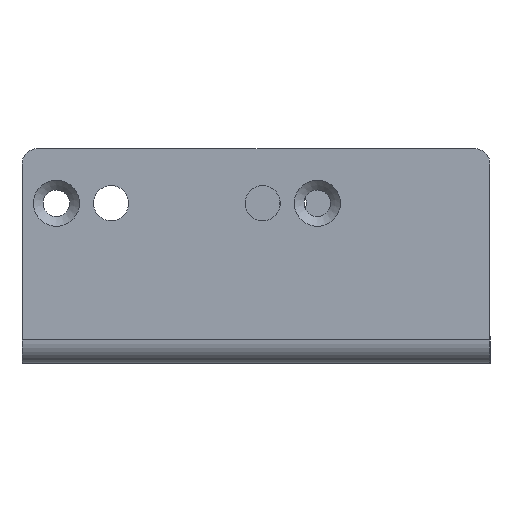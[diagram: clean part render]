
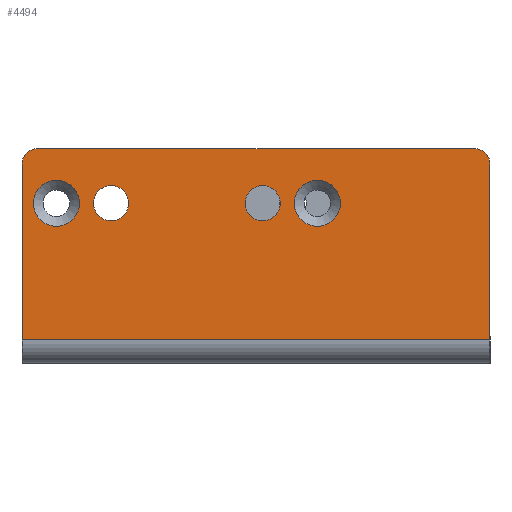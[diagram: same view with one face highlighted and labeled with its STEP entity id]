
A CAD part, left-side view. The second image highlights one B-rep face of the part: STEP entity #4494.
In plain terms, the highlighted planar face has unit normal (-1, 0, 0).
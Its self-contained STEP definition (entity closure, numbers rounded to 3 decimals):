
#441=FACE_BOUND('',#1021,.T.);
#442=FACE_BOUND('',#1022,.T.);
#443=FACE_BOUND('',#1023,.T.);
#444=FACE_BOUND('',#1024,.T.);
#553=PLANE('',#4790);
#791=FACE_OUTER_BOUND('',#1020,.T.);
#1020=EDGE_LOOP('',(#3488,#3489,#3490,#3491,#3492,#3493));
#1021=EDGE_LOOP('',(#3494));
#1022=EDGE_LOOP('',(#3495));
#1023=EDGE_LOOP('',(#3496));
#1024=EDGE_LOOP('',(#3497));
#1330=LINE('',#6370,#1789);
#1336=LINE('',#6394,#1795);
#1345=LINE('',#6429,#1804);
#1347=LINE('',#6436,#1806);
#1789=VECTOR('',#5218,10.);
#1795=VECTOR('',#5242,10.);
#1804=VECTOR('',#5285,10.);
#1806=VECTOR('',#5293,10.);
#2241=CIRCLE('',#4754,2.);
#2248=CIRCLE('',#4764,2.);
#2253=CIRCLE('',#4775,2.95);
#2254=CIRCLE('',#4777,2.95);
#2255=CIRCLE('',#4779,2.25);
#2256=CIRCLE('',#4781,2.25);
#2387=VERTEX_POINT('',#6357);
#2388=VERTEX_POINT('',#6358);
#2392=VERTEX_POINT('',#6368);
#2400=VERTEX_POINT('',#6388);
#2401=VERTEX_POINT('',#6392);
#2406=VERTEX_POINT('',#6412);
#2407=VERTEX_POINT('',#6416);
#2408=VERTEX_POINT('',#6420);
#2409=VERTEX_POINT('',#6424);
#2410=VERTEX_POINT('',#6428);
#2788=EDGE_CURVE('',#2387,#2388,#2241,.T.);
#2794=EDGE_CURVE('',#2392,#2387,#1330,.T.);
#2803=EDGE_CURVE('',#2400,#2392,#2248,.T.);
#2806=EDGE_CURVE('',#2401,#2400,#1336,.T.);
#2815=EDGE_CURVE('',#2406,#2406,#2253,.T.);
#2817=EDGE_CURVE('',#2407,#2407,#2254,.T.);
#2819=EDGE_CURVE('',#2408,#2408,#2255,.T.);
#2821=EDGE_CURVE('',#2409,#2409,#2256,.T.);
#2823=EDGE_CURVE('',#2401,#2410,#1345,.T.);
#2827=EDGE_CURVE('',#2388,#2410,#1347,.T.);
#3488=ORIENTED_EDGE('',*,*,#2788,.F.);
#3489=ORIENTED_EDGE('',*,*,#2794,.F.);
#3490=ORIENTED_EDGE('',*,*,#2803,.F.);
#3491=ORIENTED_EDGE('',*,*,#2806,.F.);
#3492=ORIENTED_EDGE('',*,*,#2823,.T.);
#3493=ORIENTED_EDGE('',*,*,#2827,.F.);
#3494=ORIENTED_EDGE('',*,*,#2815,.T.);
#3495=ORIENTED_EDGE('',*,*,#2817,.T.);
#3496=ORIENTED_EDGE('',*,*,#2819,.T.);
#3497=ORIENTED_EDGE('',*,*,#2821,.T.);
#4494=ADVANCED_FACE('',(#791,#441,#442,#443,#444),#553,.F.);
#4754=AXIS2_PLACEMENT_3D('',#6359,#5208,#5209);
#4764=AXIS2_PLACEMENT_3D('',#6389,#5236,#5237);
#4775=AXIS2_PLACEMENT_3D('',#6413,#5265,#5266);
#4777=AXIS2_PLACEMENT_3D('',#6417,#5270,#5271);
#4779=AXIS2_PLACEMENT_3D('',#6421,#5275,#5276);
#4781=AXIS2_PLACEMENT_3D('',#6425,#5280,#5281);
#4790=AXIS2_PLACEMENT_3D('',#6446,#5305,#5306);
#5208=DIRECTION('center_axis',(1.,0.,0.));
#5209=DIRECTION('ref_axis',(0.,-0.707,0.707));
#5218=DIRECTION('',(0.,-1.,0.));
#5236=DIRECTION('center_axis',(1.,0.,0.));
#5237=DIRECTION('ref_axis',(0.,0.707,0.707));
#5242=DIRECTION('',(0.,0.,1.));
#5265=DIRECTION('center_axis',(1.,0.,0.));
#5266=DIRECTION('ref_axis',(0.,0.,1.));
#5270=DIRECTION('center_axis',(1.,0.,0.));
#5271=DIRECTION('ref_axis',(0.,0.,1.));
#5275=DIRECTION('center_axis',(1.,0.,0.));
#5276=DIRECTION('ref_axis',(0.,0.,1.));
#5280=DIRECTION('center_axis',(1.,0.,0.));
#5281=DIRECTION('ref_axis',(0.,0.,1.));
#5285=DIRECTION('',(0.,-1.,0.));
#5293=DIRECTION('',(0.,0.,-1.));
#5305=DIRECTION('center_axis',(1.,0.,0.));
#5306=DIRECTION('ref_axis',(0.,0.,-1.));
#6357=CARTESIAN_POINT('',(-63.2,-27.95,25.5));
#6358=CARTESIAN_POINT('',(-63.2,-29.95,23.5));
#6359=CARTESIAN_POINT('Origin',(-63.2,-27.95,23.5));
#6368=CARTESIAN_POINT('',(-63.2,27.95,25.5));
#6370=CARTESIAN_POINT('',(-63.2,29.95,25.5));
#6388=CARTESIAN_POINT('',(-63.2,29.95,23.5));
#6389=CARTESIAN_POINT('Origin',(-63.2,27.95,23.5));
#6392=CARTESIAN_POINT('',(-63.2,29.95,1.));
#6394=CARTESIAN_POINT('',(-63.2,29.95,1.));
#6412=CARTESIAN_POINT('',(-63.2,25.55,15.55));
#6413=CARTESIAN_POINT('Origin',(-63.2,25.55,18.5));
#6416=CARTESIAN_POINT('',(-63.2,-7.85,15.55));
#6417=CARTESIAN_POINT('Origin',(-63.2,-7.85,18.5));
#6420=CARTESIAN_POINT('',(-63.2,18.55,16.25));
#6421=CARTESIAN_POINT('Origin',(-63.2,18.55,18.5));
#6424=CARTESIAN_POINT('',(-63.2,-0.85,16.25));
#6425=CARTESIAN_POINT('Origin',(-63.2,-0.85,18.5));
#6428=CARTESIAN_POINT('',(-63.2,-29.95,1.));
#6429=CARTESIAN_POINT('',(-63.2,0.,1.));
#6436=CARTESIAN_POINT('',(-63.2,-29.95,-1.953));
#6446=CARTESIAN_POINT('Origin',(-63.2,0.,
11.773));
